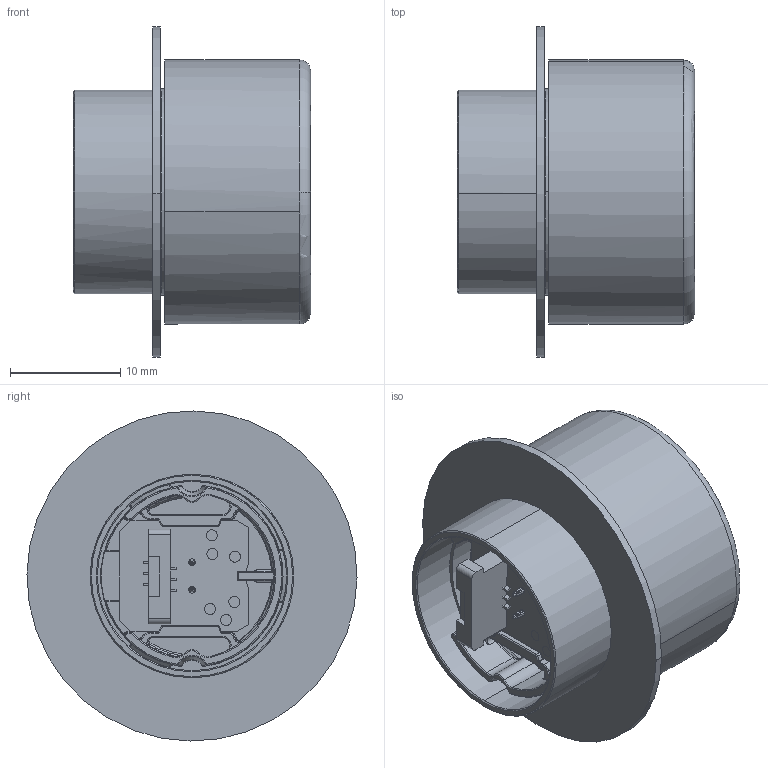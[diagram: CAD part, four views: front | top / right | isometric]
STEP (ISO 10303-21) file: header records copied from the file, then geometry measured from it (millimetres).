
FILE_DESCRIPTION(('Creo Elements/Direct Modeling STEP Export'),'2;1');
FILE_NAME('Core_01-X008_Confidential.stp','2026-09-24T14:06:39',(''),(''),'Creo Elements/Direct Modeling STEP processor for AP214 (Solid Model)','Creo Elements/Direct Modeling 20.6D 10-Jan-2026 (C) Parametric Technology GmbH','');
FILE_SCHEMA(('AUTOMOTIVE_DESIGN { 1 0 10303 214 1 1 1 1 }'));
Products named in the file (5): CORE01; Design_recomendation_Cover; PCBA_Core01_X008; Design_recomendation_Mounting_Adapter; Core_01-X008_Confidential
Assembly tree (4 placements, depth 2):
  Core_01-X008_Confidential
    Design_recomendation_Mounting_Adapter
    PCBA_Core01_X008
    Design_recomendation_Cover
    CORE01
Bounding box: 21.55 x 30 x 30 mm (x, y, z)
Volume: 6669.4 mm3; surface area: 7791.4 mm2
Topology: 4 solids, 4 shells, 1892 faces, 4860 edges, 3032 vertices
Faces by surface type: bspline 574, plane 545, cylinder 501, torus 177, cone 63, sphere 32
Entity records: 120969 total; most frequent: CARTESIAN_POINT 72678, ORIENTED_EDGE 9630, DIRECTION 6484, EDGE_CURVE 4815, VERTEX_POINT 3034, AXIS2_PLACEMENT_3D 2297, EDGE_LOOP 2017, FACE_OUTER_BOUND 1892
